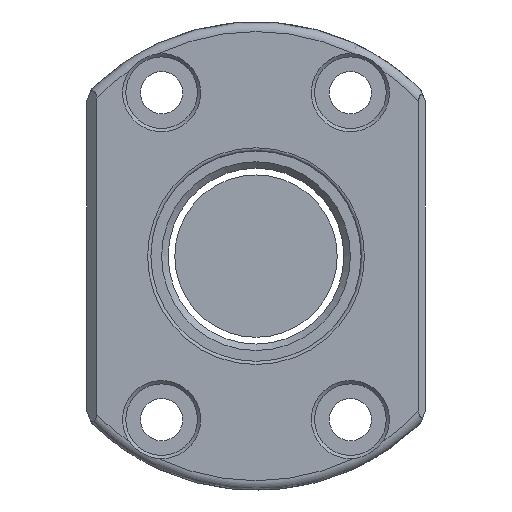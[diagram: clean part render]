
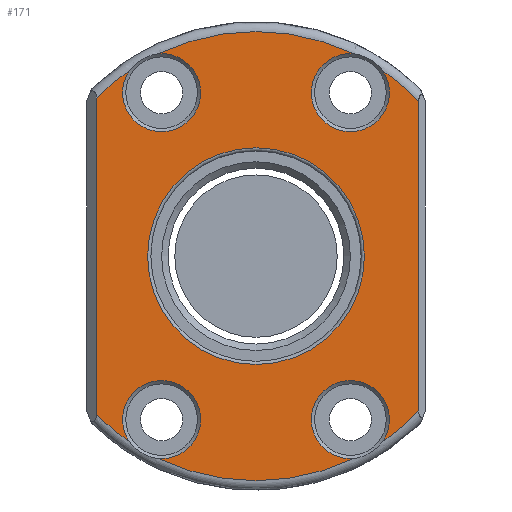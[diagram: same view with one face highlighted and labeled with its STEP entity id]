
A CAD part, front view. The second image highlights one B-rep face of the part: STEP entity #171.
In plain terms, the highlighted planar face has unit normal (0, -1, 0).
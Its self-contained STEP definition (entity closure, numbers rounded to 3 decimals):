
#60=LINE('',#1162,#84);
#61=LINE('',#1175,#85);
#84=VECTOR('',#932,1.);
#85=VECTOR('',#943,1.);
#131=PLANE('',#830);
#171=ADVANCED_FACE('',(#238,#239),#131,.T.);
#238=FACE_BOUND('',#314,.T.);
#239=FACE_BOUND('',#315,.T.);
#314=EDGE_LOOP('',(#406));
#315=EDGE_LOOP('',(#407,#408,#409,#410,#411,#412,#413,#414,#415,#416,#417,
#418));
#406=ORIENTED_EDGE('',*,*,#669,.T.);
#407=ORIENTED_EDGE('',*,*,#670,.T.);
#408=ORIENTED_EDGE('',*,*,#671,.T.);
#409=ORIENTED_EDGE('',*,*,#672,.T.);
#410=ORIENTED_EDGE('',*,*,#673,.T.);
#411=ORIENTED_EDGE('',*,*,#674,.T.);
#412=ORIENTED_EDGE('',*,*,#675,.T.);
#413=ORIENTED_EDGE('',*,*,#676,.T.);
#414=ORIENTED_EDGE('',*,*,#677,.T.);
#415=ORIENTED_EDGE('',*,*,#678,.T.);
#416=ORIENTED_EDGE('',*,*,#679,.T.);
#417=ORIENTED_EDGE('',*,*,#680,.T.);
#418=ORIENTED_EDGE('',*,*,#681,.T.);
#594=VERTEX_POINT('',#1161);
#595=VERTEX_POINT('',#1163);
#596=VERTEX_POINT('',#1164);
#597=VERTEX_POINT('',#1166);
#598=VERTEX_POINT('',#1168);
#599=VERTEX_POINT('',#1170);
#600=VERTEX_POINT('',#1172);
#601=VERTEX_POINT('',#1174);
#602=VERTEX_POINT('',#1176);
#603=VERTEX_POINT('',#1178);
#604=VERTEX_POINT('',#1180);
#605=VERTEX_POINT('',#1182);
#606=VERTEX_POINT('',#1184);
#669=EDGE_CURVE('',#594,#594,#764,.T.);
#670=EDGE_CURVE('',#595,#596,#60,.T.);
#671=EDGE_CURVE('',#596,#597,#765,.T.);
#672=EDGE_CURVE('',#597,#598,#766,.T.);
#673=EDGE_CURVE('',#598,#599,#767,.T.);
#674=EDGE_CURVE('',#599,#600,#768,.T.);
#675=EDGE_CURVE('',#600,#601,#769,.T.);
#676=EDGE_CURVE('',#601,#602,#61,.T.);
#677=EDGE_CURVE('',#602,#603,#770,.T.);
#678=EDGE_CURVE('',#603,#604,#771,.T.);
#679=EDGE_CURVE('',#604,#605,#772,.T.);
#680=EDGE_CURVE('',#605,#606,#773,.T.);
#681=EDGE_CURVE('',#606,#595,#774,.T.);
#764=CIRCLE('',#819,16.65);
#765=CIRCLE('',#820,34.5);
#766=CIRCLE('',#821,6.);
#767=CIRCLE('',#822,34.5);
#768=CIRCLE('',#823,6.);
#769=CIRCLE('',#824,34.5);
#770=CIRCLE('',#825,34.5);
#771=CIRCLE('',#826,6.);
#772=CIRCLE('',#827,34.5);
#773=CIRCLE('',#828,6.);
#774=CIRCLE('',#829,34.5);
#819=AXIS2_PLACEMENT_3D('',#1160,#930,#931);
#820=AXIS2_PLACEMENT_3D('',#1165,#933,#934);
#821=AXIS2_PLACEMENT_3D('',#1167,#935,#936);
#822=AXIS2_PLACEMENT_3D('',#1169,#937,#938);
#823=AXIS2_PLACEMENT_3D('',#1171,#939,#940);
#824=AXIS2_PLACEMENT_3D('',#1173,#941,#942);
#825=AXIS2_PLACEMENT_3D('',#1177,#944,#945);
#826=AXIS2_PLACEMENT_3D('',#1179,#946,#947);
#827=AXIS2_PLACEMENT_3D('',#1181,#948,#949);
#828=AXIS2_PLACEMENT_3D('',#1183,#950,#951);
#829=AXIS2_PLACEMENT_3D('',#1185,#952,#953);
#830=AXIS2_PLACEMENT_3D('',#1186,#954,#955);
#930=DIRECTION('',(0.,1.,0.));
#931=DIRECTION('',(0.,0.,-1.));
#932=DIRECTION('',(0.,0.,-1.));
#933=DIRECTION('',(0.,-1.,0.));
#934=DIRECTION('',(0.,0.,-1.));
#935=DIRECTION('',(0.,1.,0.));
#936=DIRECTION('',(0.,0.,-1.));
#937=DIRECTION('',(0.,-1.,0.));
#938=DIRECTION('',(0.,0.,-1.));
#939=DIRECTION('',(0.,1.,0.));
#940=DIRECTION('',(0.,0.,-1.));
#941=DIRECTION('',(0.,-1.,0.));
#942=DIRECTION('',(0.,0.,-1.));
#943=DIRECTION('',(0.,0.,1.));
#944=DIRECTION('',(0.,-1.,0.));
#945=DIRECTION('',(0.,0.,-1.));
#946=DIRECTION('',(0.,1.,0.));
#947=DIRECTION('',(0.,0.,-1.));
#948=DIRECTION('',(0.,-1.,0.));
#949=DIRECTION('',(0.,0.,-1.));
#950=DIRECTION('',(0.,1.,0.));
#951=DIRECTION('',(0.,0.,-1.));
#952=DIRECTION('',(0.,-1.,0.));
#953=DIRECTION('',(0.,0.,-1.));
#954=DIRECTION('',(0.,-1.,0.));
#955=DIRECTION('',(0.,0.,-1.));
#1160=CARTESIAN_POINT('',(0.,0.,0.));
#1161=CARTESIAN_POINT('',(0.,0.,-16.65));
#1162=CARTESIAN_POINT('',(-24.5,0.,0.));
#1163=CARTESIAN_POINT('',(-24.5,0.,24.29));
#1164=CARTESIAN_POINT('',(-24.5,0.,-24.29));
#1165=CARTESIAN_POINT('',(0.,0.,0.));
#1166=CARTESIAN_POINT('',(-19.464,0.,-28.485));
#1167=CARTESIAN_POINT('',(-14.5,0.,-25.115));
#1168=CARTESIAN_POINT('',(-14.937,0.,-31.099));
#1169=CARTESIAN_POINT('',(0.,0.,0.));
#1170=CARTESIAN_POINT('',(14.937,0.,-31.099));
#1171=CARTESIAN_POINT('',(14.5,0.,-25.115));
#1172=CARTESIAN_POINT('',(19.464,0.,-28.485));
#1173=CARTESIAN_POINT('',(0.,0.,0.));
#1174=CARTESIAN_POINT('',(25.,0.,-23.775));
#1175=CARTESIAN_POINT('',(25.,0.,0.));
#1176=CARTESIAN_POINT('',(25.,0.,23.775));
#1177=CARTESIAN_POINT('',(0.,0.,0.));
#1178=CARTESIAN_POINT('',(19.464,0.,28.485));
#1179=CARTESIAN_POINT('',(14.5,0.,25.115));
#1180=CARTESIAN_POINT('',(14.937,0.,31.099));
#1181=CARTESIAN_POINT('',(0.,0.,0.));
#1182=CARTESIAN_POINT('',(-14.937,0.,31.099));
#1183=CARTESIAN_POINT('',(-14.5,0.,25.115));
#1184=CARTESIAN_POINT('',(-19.464,0.,28.485));
#1185=CARTESIAN_POINT('',(0.,0.,0.));
#1186=CARTESIAN_POINT('',(0.,0.,0.));
